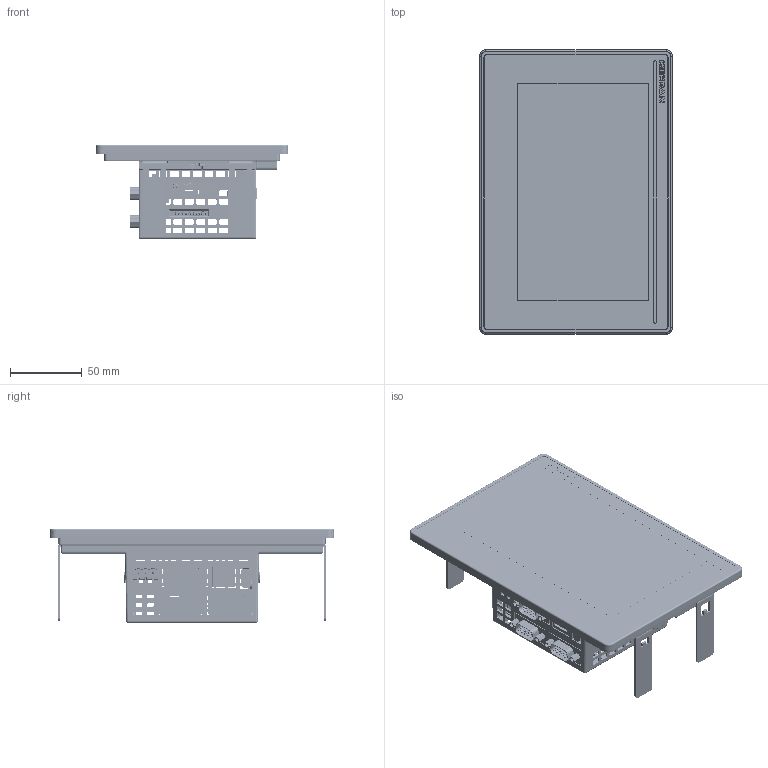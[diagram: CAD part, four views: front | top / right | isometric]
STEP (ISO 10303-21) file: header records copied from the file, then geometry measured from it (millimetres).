
FILE_DESCRIPTION((''),'2;1');
FILE_NAME('ASM_VEDO_SL_70','2019-07-19T09:00:45',('paolo.garatti'),('GEFRAN S.p.A via Carducci,24 21040 Gerenzano (VA)'),'CREO PARAMETRIC BY PTC INC, 2018300','CREO PARAMETRIC BY PTC INC, 2018300','');
FILE_SCHEMA(('AUTOMOTIVE_DESIGN { 1 0 10303 214 1 1 1 1 }'));
Products named in the file (26): BOX_VEDO_SL_70; CONN_3PM_90_P5_08_1757255; PRESA_RETE; BACK_SHELL; CONTACT01; CONTACT02; CONTACT03; CONTACT04; HOUSING; SHELL; USB-A-S-X-X-VU-XX; ROTARY_SWITCHES_SMD; 4X2_MMT104-01-T-DH-P; CONN_DB9_ERNI_154189; JUMPER; 3X2_MMT103-01-T-DH-P; PCB1_PRINCIPALE; MOLEX_5035000991; PCB2_OPTIONAL; ASM_DSP_UMSH8596MD2T; LEXAN_70_VEDOSL; GUARNIZIONE_70; COPERCHIO_BOX_NEW_301115; 56648_MOLLA; STAFFETTA_MONTAGGIO_70_OP; ASM_VEDO_SL_70
Assembly tree (29 placements, depth 4):
  ASM_VEDO_SL_70
    BOX_VEDO_SL_70
    PCB1_PRINCIPALE
      CONN_3PM_90_P5_08_1757255
      PRESA_RETE
      USB-A-S-X-X-VU-XX
        BACK_SHELL
        CONTACT01
        CONTACT02
        CONTACT03
        CONTACT04
        HOUSING
        SHELL
      ROTARY_SWITCHES_SMD
      4X2_MMT104-01-T-DH-P
      CONN_DB9_ERNI_154189
      JUMPER
      3X2_MMT103-01-T-DH-P
    PCB2_OPTIONAL
      CONN_DB9_ERNI_154189  x2
      MOLEX_5035000991
    ASM_DSP_UMSH8596MD2T
    LEXAN_70_VEDOSL
    GUARNIZIONE_70
    COPERCHIO_BOX_NEW_301115
    56648_MOLLA  x2
    STAFFETTA_MONTAGGIO_70_OP  x2
Bounding box: 134.4 x 198 x 65.8 mm (x, y, z)
Volume: 180888.7 mm3; surface area: 234492.9 mm2
Topology: 25 solids, 25 shells, 8367 faces, 22708 edges, 14628 vertices
Faces by surface type: plane 5467, cylinder 2261, torus 457, cone 69, bspline 45, extrusion 38, sphere 30
Entity records: 329241 total; most frequent: CARTESIAN_POINT 48483, ORIENTED_EDGE 43940, DIRECTION 41961, EDGE_CURVE 21970, PRESENTATION_STYLE_ASSIGNMENT 20524, STYLED_ITEM 19294, CURVE_STYLE 19257, VECTOR 16845
